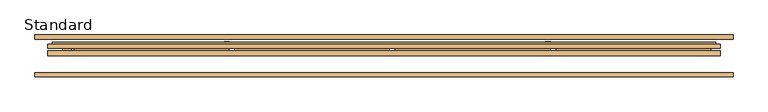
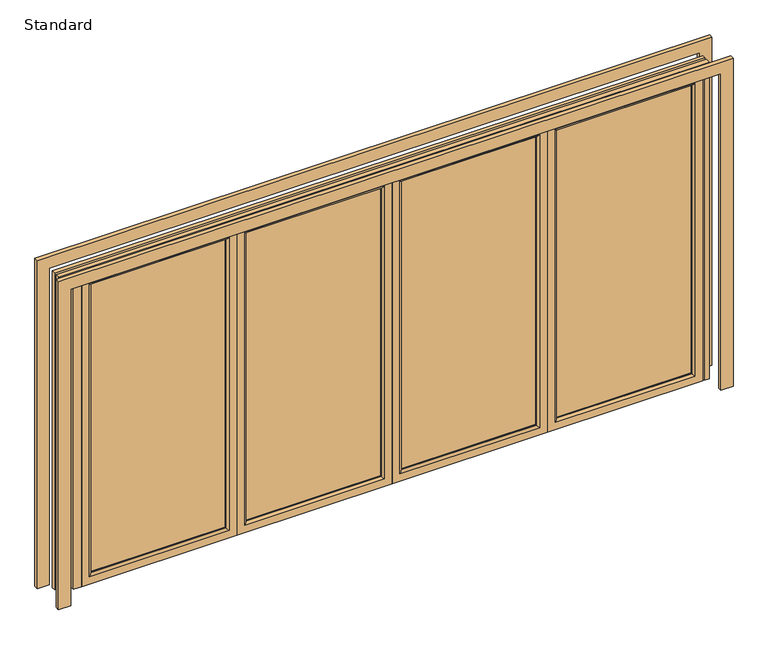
"""IFC4 building model written with IfcOpenShell, lengths in millimetres: door geometry, SMARTS_Visofold1000 : Standard."""

from ifc_helpers import new_model, si_unit, point, frame, frame_2d, origin, origin_with_axes, place, context, project, spatial, polyline, circle_curve, ellipse_curve, trimmed, segment, composite_curve, outline, extrude, faceted_brep, source, transform, mapped, element, save
from ifc_brep_helpers import plane_surface, cylinder_surface, advanced_brep


def standard_d86012df(model_context):
    return source(origin(), model_context, "Body", "SolidModel", [
        extrude(outline(composite_curve([segment(polyline([(1228.0996413, -951.0), (1040.0996413, -951.0)]), True, "CONTINUOUS"), segment(trimmed(circle_curve(frame_2d((1040.0996413, -935.0)), 16.0), [point((1040.0996413, -951.0))], [point((1040.0996413, -919.0))], False, "CARTESIAN"), True, "CONTINUOUS"), segment(polyline([(1040.0996413, -919.0), (1228.0996413, -919.0)]), True, "CONTINUOUS"), segment(trimmed(circle_curve(frame_2d((1228.0996413, -935.0)), 16.0), [point((1228.0996413, -919.0))], [point((1228.0996413, -951.0))], False, "CARTESIAN"), True, "CONTINUOUS")], self_intersect=False)), frame((0.0, 75.0, 0.0), z_axis=(0.0, 1.0, 0.0), x_axis=(0.0, 0.0, 1.0)), (0.0, 0.0, 1.0), 10.0),
        extrude(outline(polyline([(45.0, -950.0), (1955.0, -950.0), (1955.0, -1815.0), (45.0, -1815.0), (45.0, -950.0)]), holes=[polyline([(1939.5, -965.5), (60.5, -965.5), (60.5, -1799.5), (1939.5, -1799.5), (1939.5, -965.5)])]), frame((0.0, 17.4, 0.0), z_axis=(0.0, 1.0, 0.0), x_axis=(0.0, 0.0, 1.0)), (0.0, 0.0, 1.0), 35.0),
        faceted_brep([(-905.0, 74.4, 0.0), (-905.0, 74.4, 2000.0), (-905.0, 52.4, 2000.0), (-905.0, 52.4, 0.0), (-965.5, 52.4, 60.5), (-965.5, 52.4, 1939.5), (-965.5, 74.4, 1939.5), (-965.5, 74.4, 60.5), (-1860.0, 74.4, 2000.0), (-1860.0, 52.4, 2000.0), (-1799.5, 52.4, 1939.5), (-1799.5, 74.4, 1939.5), (-1860.0, 74.4, 0.0), (-1860.0, 52.4, 0.0), (-1799.5, 52.4, 60.5), (-1799.5, 74.4, 60.5), (-922.8691481, 34.8, 17.8691481), (-922.8691481, 34.8, 1982.1308519), (-1842.1308519, 34.8, 1982.1308519), (-1842.1308519, 34.8, 17.8691481), (-950.0, 34.8, 1955.0), (-950.0, 34.8, 45.0), (-1815.0, 34.8, 45.0), (-1815.0, 34.8, 1955.0), (-922.8691481, 52.4, 17.8691481), (-922.8691481, 52.4, 1982.1308519), (-950.0, 52.4, 1955.0), (-950.0, 52.4, 45.0), (-1842.1308519, 52.4, 1982.1308519), (-1815.0, 52.4, 1955.0), (-1842.1308519, 52.4, 17.8691481), (-1815.0, 52.4, 45.0)], [[[0, 1, 2, 3]], [[4, 5, 6, 7]], [[1, 8, 9, 2]], [[5, 10, 11, 6]], [[8, 12, 13, 9]], [[10, 14, 15, 11]], [[12, 0, 3, 13]], [[1, 0, 12, 8], [7, 6, 11, 15]], [[14, 4, 7, 15]], [[16, 17, 18, 19], [20, 21, 22, 23]], [[24, 25, 17, 16]], [[21, 20, 26, 27]], [[25, 28, 18, 17]], [[20, 23, 29, 26]], [[28, 30, 19, 18]], [[23, 22, 31, 29]], [[30, 24, 16, 19]], [[3, 2, 9, 13], [25, 24, 30, 28]], [[27, 26, 29, 31], [5, 4, 14, 10]], [[22, 21, 27, 31]]]),
        advanced_brep(
        [(-965.5, 13.3, 60.5), (-965.5, 13.3, 1939.5), (-965.5, 17.4, 1939.5), (-965.5, 17.4, 60.5), (-905.0, 17.4, 0.0), (-905.0, 17.4, 2000.0), (-905.0, 0.0, 2000.0), (-905.0, 0.0, 0.0), (-1799.5, 13.3, 1939.5), (-1799.5, 17.4, 1939.5), (-1860.0, 17.4, 2000.0), (-1860.0, 0.0, 2000.0), (-1799.5, 13.3, 60.5), (-1799.5, 17.4, 60.5), (-1860.0, 17.4, 0.0), (-1860.0, 0.0, 0.0), (-952.2, 0.0, 1952.8), (-952.2, 0.0, 47.2), (-1812.8, 0.0, 47.2), (-1812.8, 0.0, 1952.8), (-922.8691481, 34.8, 17.8691481), (-922.8691481, 34.8, 1982.1308519), (-922.8691481, 17.4, 1982.1308519), (-922.8691481, 17.4, 17.8691481), (-1842.1308519, 34.8, 1982.1308519), (-1842.1308519, 17.4, 1982.1308519), (-1842.1308519, 34.8, 17.8691481), (-1842.1308519, 17.4, 17.8691481), (-950.0, 17.4, 45.0), (-950.0, 17.4, 1955.0), (-950.0, 34.8, 1955.0), (-950.0, 34.8, 45.0), (-1815.0, 17.4, 1955.0), (-1815.0, 34.8, 1955.0), (-1815.0, 17.4, 45.0), (-1815.0, 34.8, 45.0)],
        [
            (0, 1),
            (1, 2),
            (2, 3),
            (3, 0),
            (4, 5),
            (5, 6),
            (6, 7),
            (7, 4),
            (1, 8),
            (8, 9),
            (9, 2),
            (5, 10),
            (10, 11),
            (11, 6),
            (8, 12),
            (12, 13),
            (13, 9),
            (10, 14),
            (14, 15),
            (15, 11),
            (12, 0),
            (3, 13),
            (15, 7),
            (16, 17),
            (17, 18),
            (18, 19),
            (19, 16),
            (14, 4),
            (16, 1, ellipse_curve(frame((-952.2, 13.3, 1952.8), z_axis=(0.7071067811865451, 0.0, -0.7071067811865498), x_axis=(-0.7071067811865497, 0.0, -0.7071067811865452)), 18.8090404, 13.3)),
            (0, 17, ellipse_curve(frame((-952.2, 13.3, 47.2), z_axis=(0.7071067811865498, 0.0, 0.7071067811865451), x_axis=(0.707106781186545, 0.0, -0.70710678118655)), 18.8090404, 13.3)),
            (19, 8, ellipse_curve(frame((-1812.8, 13.3, 1952.8), z_axis=(0.7071067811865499, 0.0, 0.7071067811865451), x_axis=(0.7071067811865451, 0.0, -0.7071067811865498)), 18.8090404, 13.3)),
            (18, 12, ellipse_curve(frame((-1812.8, 13.3, 47.2), z_axis=(-0.7071067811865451, 0.0, 0.7071067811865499), x_axis=(0.7071067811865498, 0.0, 0.7071067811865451)), 18.8090404, 13.3)),
            (20, 21),
            (21, 22),
            (22, 23),
            (23, 20),
            (21, 24),
            (24, 25),
            (25, 22),
            (24, 26),
            (26, 27),
            (27, 25),
            (27, 23),
            (26, 20),
            (28, 29),
            (29, 30),
            (30, 31),
            (31, 28),
            (29, 32),
            (32, 33),
            (33, 30),
            (32, 34),
            (34, 35),
            (35, 33),
            (34, 28),
            (31, 35),
        ],
        [
            plane_surface(frame((-965.5, 17.4, 60.5), z_axis=(-1.0, 0.0, 0.0), x_axis=(0.0, 0.0, 1.0))),
            plane_surface(frame((-905.0, 0.0, 0.0), z_axis=(1.0, 0.0, 0.0), x_axis=(0.0, 0.0, 1.0))),
            plane_surface(frame((-965.5, 17.4, 1939.5), z_axis=(0.0, 0.0, -1.0), x_axis=(-1.0, 0.0, 0.0))),
            plane_surface(frame((-905.0, 0.0, 2000.0), z_axis=(0.0, 0.0, 1.0), x_axis=(-1.0, 0.0, 0.0))),
            plane_surface(frame((-1799.5, 17.4, 1939.5), z_axis=(1.0, 0.0, 0.0), x_axis=(0.0, 0.0, -1.0))),
            plane_surface(frame((-1860.0, 0.0, 2000.0), z_axis=(-1.0, 0.0, 0.0), x_axis=(0.0, 0.0, -1.0))),
            plane_surface(frame((-1799.5, 17.4, 60.5), z_axis=(0.0, 0.0, 1.0), x_axis=(1.0, 0.0, 0.0))),
            plane_surface(frame((-1812.8, 0.0, 47.2), z_axis=(0.0, -1.0, 0.0), x_axis=(1.0, 0.0, 0.0))),
            plane_surface(frame((-1860.0, 0.0, 0.0), z_axis=(0.0, 0.0, -1.0), x_axis=(1.0, 0.0, 0.0))),
            cylinder_surface(frame((-952.2, 13.3, 0.0), z_axis=(0.0, 0.0, -1.0), x_axis=(0.0, 1.0, 0.0)), 13.3),
            cylinder_surface(frame((-905.0, 13.3, 1952.8), z_axis=(1.0, 0.0, 0.0), x_axis=(0.0, 1.0, 0.0)), 13.3),
            cylinder_surface(frame((-1812.8, 13.3, 2000.0), z_axis=(0.0, 0.0, 1.0), x_axis=(0.0, 1.0, 0.0)), 13.3),
            cylinder_surface(frame((-1860.0, 13.3, 47.2), z_axis=(-1.0, 0.0, 0.0), x_axis=(0.0, 1.0, 0.0)), 13.3),
            plane_surface(frame((-922.8691481, 17.4, 17.8691481), z_axis=(1.0, 0.0, 0.0), x_axis=(0.0, 0.0, 1.0))),
            plane_surface(frame((-922.8691481, 17.4, 1982.1308519), z_axis=(0.0, 0.0, 1.0), x_axis=(-1.0, 0.0, 0.0))),
            plane_surface(frame((-1842.1308519, 17.4, 1982.1308519), z_axis=(-1.0, 0.0, 0.0), x_axis=(0.0, 0.0, -1.0))),
            plane_surface(frame((-1860.0, 17.4, 0.0), z_axis=(0.0, 1.0, 0.0), x_axis=(1.0, 0.0, 0.0))),
            plane_surface(frame((-1842.1308519, 17.4, 17.8691481), z_axis=(0.0, 0.0, -1.0), x_axis=(1.0, 0.0, 0.0))),
            plane_surface(frame((-950.0, 34.8, 45.0), z_axis=(-1.0, 0.0, 0.0), x_axis=(0.0, 0.0, 1.0))),
            plane_surface(frame((-950.0, 34.8, 1955.0), z_axis=(0.0, 0.0, -1.0), x_axis=(-1.0, 0.0, 0.0))),
            plane_surface(frame((-1815.0, 34.8, 1955.0), z_axis=(1.0, 0.0, 0.0), x_axis=(0.0, 0.0, -1.0))),
            plane_surface(frame((-1815.0, 34.8, 45.0), z_axis=(0.0, 0.0, 1.0), x_axis=(1.0, 0.0, 0.0))),
            plane_surface(frame((-1815.0, 17.4, 45.0), z_axis=(0.0, 1.0, 0.0), x_axis=(1.0, 0.0, 0.0))),
            plane_surface(frame((-1842.1308519, 34.8, 17.8691481), z_axis=(0.0, 1.0, 0.0), x_axis=(1.0, 0.0, 0.0))),
        ],
        [
            (0, [[1, 2, 3, 4]]),
            (1, [[5, 6, 7, 8]]),
            (2, [[9, 10, 11, -2]]),
            (3, [[12, 13, 14, -6]]),
            (4, [[15, 16, 17, -10]]),
            (5, [[18, 19, 20, -13]]),
            (6, [[21, -4, 22, -16]]),
            (7, [[-7, -14, -20, 23], [24, 25, 26, 27]]),
            (8, [[28, -8, -23, -19]]),
            (9, [[-24, 29, -1, 30]]),
            (10, [[-27, 31, -9, -29]]),
            (11, [[-26, 32, -15, -31]]),
            (12, [[-25, -30, -21, -32]]),
            (13, [[33, 34, 35, 36]]),
            (14, [[37, 38, 39, -34]]),
            (15, [[40, 41, 42, -38]]),
            (16, [[-5, -28, -18, -12], [-35, -39, -42, 43]]),
            (17, [[44, -36, -43, -41]]),
            (18, [[45, 46, 47, 48]]),
            (19, [[49, 50, 51, -46]]),
            (20, [[52, 53, 54, -50]]),
            (21, [[55, -48, 56, -53]]),
            (22, [[-45, -55, -52, -49], [-3, -11, -17, -22]]),
            (23, [[-33, -44, -40, -37], [-47, -51, -54, -56]]),
        ],
    ),
        extrude(outline(polyline([(-965.5, 50.1484783), (-965.5, 21.4), (-1799.5, 21.4), (-1799.5, 50.1484783), (-965.5, 50.1484783)])), frame((0.0, 0.0, 60.5), z_axis=(0.0, 0.0, 1.0), x_axis=(1.0, 0.0, 0.0)), (0.0, 0.0, 1.0), 1879.0),
        extrude(outline(composite_curve([segment(polyline([(1228.0996413, 959.0), (1040.0996413, 959.0)]), True, "CONTINUOUS"), segment(trimmed(circle_curve(frame_2d((1040.0996413, 975.0)), 16.0), [point((1040.0996413, 959.0))], [point((1040.0996413, 991.0))], False, "CARTESIAN"), True, "CONTINUOUS"), segment(polyline([(1040.0996413, 991.0), (1228.0996413, 991.0)]), True, "CONTINUOUS"), segment(trimmed(circle_curve(frame_2d((1228.0996413, 975.0)), 16.0), [point((1228.0996413, 991.0))], [point((1228.0996413, 959.0))], False, "CARTESIAN"), True, "CONTINUOUS")], self_intersect=False)), frame((0.0, 75.0, 0.0), z_axis=(0.0, 1.0, 0.0), x_axis=(0.0, 0.0, 1.0)), (0.0, 0.0, 1.0), 10.0),
        extrude(outline(polyline([(45.0, 960.0), (1955.0, 960.0), (1955.0, 95.0), (45.0, 95.0), (45.0, 960.0)]), holes=[polyline([(1939.5, 944.5), (60.5, 944.5), (60.5, 110.5), (1939.5, 110.5), (1939.5, 944.5)])]), frame((0.0, 17.4, 0.0), z_axis=(0.0, 1.0, 0.0), x_axis=(0.0, 0.0, 1.0)), (0.0, 0.0, 1.0), 35.0),
        faceted_brep([(1005.0, 74.4, 0.0), (1005.0, 74.4, 2000.0), (1005.0, 52.4, 2000.0), (1005.0, 52.4, 0.0), (944.5, 52.4, 60.5), (944.5, 52.4, 1939.5), (944.5, 74.4, 1939.5), (944.5, 74.4, 60.5), (50.0, 74.4, 2000.0), (50.0, 52.4, 2000.0), (110.5, 52.4, 1939.5), (110.5, 74.4, 1939.5), (50.0, 74.4, 0.0), (50.0, 52.4, 0.0), (110.5, 52.4, 60.5), (110.5, 74.4, 60.5), (987.1308519, 34.8, 17.8691481), (987.1308519, 34.8, 1982.1308519), (67.8691481, 34.8, 1982.1308519), (67.8691481, 34.8, 17.8691481), (960.0, 34.8, 1955.0), (960.0, 34.8, 45.0), (95.0, 34.8, 45.0), (95.0, 34.8, 1955.0), (987.1308519, 52.4, 17.8691481), (987.1308519, 52.4, 1982.1308519), (960.0, 52.4, 1955.0), (960.0, 52.4, 45.0), (67.8691481, 52.4, 1982.1308519), (95.0, 52.4, 1955.0), (67.8691481, 52.4, 17.8691481), (95.0, 52.4, 45.0)], [[[0, 1, 2, 3]], [[4, 5, 6, 7]], [[1, 8, 9, 2]], [[5, 10, 11, 6]], [[8, 12, 13, 9]], [[10, 14, 15, 11]], [[12, 0, 3, 13]], [[1, 0, 12, 8], [7, 6, 11, 15]], [[14, 4, 7, 15]], [[16, 17, 18, 19], [20, 21, 22, 23]], [[24, 25, 17, 16]], [[21, 20, 26, 27]], [[25, 28, 18, 17]], [[20, 23, 29, 26]], [[28, 30, 19, 18]], [[23, 22, 31, 29]], [[30, 24, 16, 19]], [[3, 2, 9, 13], [25, 24, 30, 28]], [[27, 26, 29, 31], [5, 4, 14, 10]], [[22, 21, 27, 31]]]),
        advanced_brep(
        [(944.5, 13.3, 60.5), (944.5, 13.3, 1939.5), (944.5, 17.4, 1939.5), (944.5, 17.4, 60.5), (1005.0, 17.4, 0.0), (1005.0, 17.4, 2000.0), (1005.0, 0.0, 2000.0), (1005.0, 0.0, 0.0), (110.5, 13.3, 1939.5), (110.5, 17.4, 1939.5), (50.0, 17.4, 2000.0), (50.0, 0.0, 2000.0), (110.5, 13.3, 60.5), (110.5, 17.4, 60.5), (50.0, 17.4, 0.0), (50.0, 0.0, 0.0), (957.8, 0.0, 1952.8), (957.8, 0.0, 47.2), (97.2, 0.0, 47.2), (97.2, 0.0, 1952.8), (987.1308519, 34.8, 17.8691481), (987.1308519, 34.8, 1982.1308519), (987.1308519, 17.4, 1982.1308519), (987.1308519, 17.4, 17.8691481), (67.8691481, 34.8, 1982.1308519), (67.8691481, 17.4, 1982.1308519), (67.8691481, 34.8, 17.8691481), (67.8691481, 17.4, 17.8691481), (960.0, 17.4, 45.0), (960.0, 17.4, 1955.0), (960.0, 34.8, 1955.0), (960.0, 34.8, 45.0), (95.0, 17.4, 1955.0), (95.0, 34.8, 1955.0), (95.0, 17.4, 45.0), (95.0, 34.8, 45.0)],
        [
            (0, 1),
            (1, 2),
            (2, 3),
            (3, 0),
            (4, 5),
            (5, 6),
            (6, 7),
            (7, 4),
            (1, 8),
            (8, 9),
            (9, 2),
            (5, 10),
            (10, 11),
            (11, 6),
            (8, 12),
            (12, 13),
            (13, 9),
            (10, 14),
            (14, 15),
            (15, 11),
            (12, 0),
            (3, 13),
            (15, 7),
            (16, 17),
            (17, 18),
            (18, 19),
            (19, 16),
            (14, 4),
            (16, 1, ellipse_curve(frame((957.8, 13.3, 1952.8), z_axis=(0.7071067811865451, 0.0, -0.7071067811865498), x_axis=(-0.7071067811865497, 0.0, -0.7071067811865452)), 18.8090404, 13.3)),
            (0, 17, ellipse_curve(frame((957.8, 13.3, 47.2), z_axis=(0.7071067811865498, 0.0, 0.7071067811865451), x_axis=(0.707106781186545, 0.0, -0.70710678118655)), 18.8090404, 13.3)),
            (19, 8, ellipse_curve(frame((97.2, 13.3, 1952.8), z_axis=(0.7071067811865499, 0.0, 0.7071067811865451), x_axis=(0.7071067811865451, 0.0, -0.7071067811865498)), 18.8090404, 13.3)),
            (18, 12, ellipse_curve(frame((97.2, 13.3, 47.2), z_axis=(-0.7071067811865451, 0.0, 0.7071067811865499), x_axis=(0.7071067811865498, 0.0, 0.7071067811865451)), 18.8090404, 13.3)),
            (20, 21),
            (21, 22),
            (22, 23),
            (23, 20),
            (21, 24),
            (24, 25),
            (25, 22),
            (24, 26),
            (26, 27),
            (27, 25),
            (27, 23),
            (26, 20),
            (28, 29),
            (29, 30),
            (30, 31),
            (31, 28),
            (29, 32),
            (32, 33),
            (33, 30),
            (32, 34),
            (34, 35),
            (35, 33),
            (34, 28),
            (31, 35),
        ],
        [
            plane_surface(frame((944.5, 17.4, 60.5), z_axis=(-1.0, 0.0, 0.0), x_axis=(0.0, 0.0, 1.0))),
            plane_surface(frame((1005.0, 0.0, 0.0), z_axis=(1.0, 0.0, 0.0), x_axis=(0.0, 0.0, 1.0))),
            plane_surface(frame((944.5, 17.4, 1939.5), z_axis=(0.0, 0.0, -1.0), x_axis=(-1.0, 0.0, 0.0))),
            plane_surface(frame((1005.0, 0.0, 2000.0), z_axis=(0.0, 0.0, 1.0), x_axis=(-1.0, 0.0, 0.0))),
            plane_surface(frame((110.5, 17.4, 1939.5), z_axis=(1.0, 0.0, 0.0), x_axis=(0.0, 0.0, -1.0))),
            plane_surface(frame((50.0, 0.0, 2000.0), z_axis=(-1.0, 0.0, 0.0), x_axis=(0.0, 0.0, -1.0))),
            plane_surface(frame((110.5, 17.4, 60.5), z_axis=(0.0, 0.0, 1.0), x_axis=(1.0, 0.0, 0.0))),
            plane_surface(frame((97.2, 0.0, 47.2), z_axis=(0.0, -1.0, 0.0), x_axis=(1.0, 0.0, 0.0))),
            plane_surface(frame((50.0, 0.0, 0.0), z_axis=(0.0, 0.0, -1.0), x_axis=(1.0, 0.0, 0.0))),
            cylinder_surface(frame((957.8, 13.3, 0.0), z_axis=(0.0, 0.0, -1.0), x_axis=(0.0, 1.0, 0.0)), 13.3),
            cylinder_surface(frame((1005.0, 13.3, 1952.8), z_axis=(1.0, 0.0, 0.0), x_axis=(0.0, 1.0, 0.0)), 13.3),
            cylinder_surface(frame((97.2, 13.3, 2000.0), z_axis=(0.0, 0.0, 1.0), x_axis=(0.0, 1.0, 0.0)), 13.3),
            cylinder_surface(frame((50.0, 13.3, 47.2), z_axis=(-1.0, 0.0, 0.0), x_axis=(0.0, 1.0, 0.0)), 13.3),
            plane_surface(frame((987.1308519, 17.4, 17.8691481), z_axis=(1.0, 0.0, 0.0), x_axis=(0.0, 0.0, 1.0))),
            plane_surface(frame((987.1308519, 17.4, 1982.1308519), z_axis=(0.0, 0.0, 1.0), x_axis=(-1.0, 0.0, 0.0))),
            plane_surface(frame((67.8691481, 17.4, 1982.1308519), z_axis=(-1.0, 0.0, 0.0), x_axis=(0.0, 0.0, -1.0))),
            plane_surface(frame((50.0, 17.4, 0.0), z_axis=(0.0, 1.0, 0.0), x_axis=(1.0, 0.0, 0.0))),
            plane_surface(frame((67.8691481, 17.4, 17.8691481), z_axis=(0.0, 0.0, -1.0), x_axis=(1.0, 0.0, 0.0))),
            plane_surface(frame((960.0, 34.8, 45.0), z_axis=(-1.0, 0.0, 0.0), x_axis=(0.0, 0.0, 1.0))),
            plane_surface(frame((960.0, 34.8, 1955.0), z_axis=(0.0, 0.0, -1.0), x_axis=(-1.0, 0.0, 0.0))),
            plane_surface(frame((95.0, 34.8, 1955.0), z_axis=(1.0, 0.0, 0.0), x_axis=(0.0, 0.0, -1.0))),
            plane_surface(frame((95.0, 34.8, 45.0), z_axis=(0.0, 0.0, 1.0), x_axis=(1.0, 0.0, 0.0))),
            plane_surface(frame((95.0, 17.4, 45.0), z_axis=(0.0, 1.0, 0.0), x_axis=(1.0, 0.0, 0.0))),
            plane_surface(frame((67.8691481, 34.8, 17.8691481), z_axis=(0.0, 1.0, 0.0), x_axis=(1.0, 0.0, 0.0))),
        ],
        [
            (0, [[1, 2, 3, 4]]),
            (1, [[5, 6, 7, 8]]),
            (2, [[9, 10, 11, -2]]),
            (3, [[12, 13, 14, -6]]),
            (4, [[15, 16, 17, -10]]),
            (5, [[18, 19, 20, -13]]),
            (6, [[21, -4, 22, -16]]),
            (7, [[-7, -14, -20, 23], [24, 25, 26, 27]]),
            (8, [[28, -8, -23, -19]]),
            (9, [[-24, 29, -1, 30]]),
            (10, [[-27, 31, -9, -29]]),
            (11, [[-26, 32, -15, -31]]),
            (12, [[-25, -30, -21, -32]]),
            (13, [[33, 34, 35, 36]]),
            (14, [[37, 38, 39, -34]]),
            (15, [[40, 41, 42, -38]]),
            (16, [[-5, -28, -18, -12], [-35, -39, -42, 43]]),
            (17, [[44, -36, -43, -41]]),
            (18, [[45, 46, 47, 48]]),
            (19, [[49, 50, 51, -46]]),
            (20, [[52, 53, 54, -50]]),
            (21, [[55, -48, 56, -53]]),
            (22, [[-45, -55, -52, -49], [-3, -11, -17, -22]]),
            (23, [[-33, -44, -40, -37], [-47, -51, -54, -56]]),
        ],
    ),
        extrude(outline(polyline([(944.5, 50.1484783), (944.5, 21.4), (110.5, 21.4), (110.5, 50.1484783), (944.5, 50.1484783)])), frame((0.0, 0.0, 60.5), z_axis=(0.0, 0.0, 1.0), x_axis=(1.0, 0.0, 0.0)), (0.0, 0.0, 1.0), 1879.0),
        extrude(outline(polyline([(45.0, -860.0), (45.0, 5.0), (1955.0, 5.0), (1955.0, -860.0), (45.0, -860.0)]), holes=[polyline([(1939.5, -844.5), (1939.5, -10.5), (60.5, -10.5), (60.5, -844.5), (1939.5, -844.5)])]), frame((0.0, 17.4, 0.0), z_axis=(0.0, 1.0, 0.0), x_axis=(0.0, 0.0, 1.0)), (0.0, 0.0, 1.0), 35.0),
        faceted_brep([(-905.0, 74.4, 0.0), (-905.0, 52.4, 0.0), (-905.0, 52.4, 2000.0), (-905.0, 74.4, 2000.0), (-844.5, 52.4, 60.5), (-844.5, 74.4, 60.5), (-844.5, 74.4, 1939.5), (-844.5, 52.4, 1939.5), (50.0, 52.4, 2000.0), (50.0, 74.4, 2000.0), (-10.5, 74.4, 1939.5), (-10.5, 52.4, 1939.5), (50.0, 52.4, 0.0), (50.0, 74.4, 0.0), (-10.5, 74.4, 60.5), (-10.5, 52.4, 60.5), (-887.1308519, 34.8, 17.8691481), (32.1308519, 34.8, 17.8691481), (32.1308519, 34.8, 1982.1308519), (-887.1308519, 34.8, 1982.1308519), (-860.0, 34.8, 1955.0), (5.0, 34.8, 1955.0), (5.0, 34.8, 45.0), (-860.0, 34.8, 45.0), (-887.1308519, 52.4, 17.8691481), (-887.1308519, 52.4, 1982.1308519), (-860.0, 52.4, 45.0), (-860.0, 52.4, 1955.0), (32.1308519, 52.4, 1982.1308519), (5.0, 52.4, 1955.0), (32.1308519, 52.4, 17.8691481), (5.0, 52.4, 45.0)], [[[0, 1, 2, 3]], [[4, 5, 6, 7]], [[3, 2, 8, 9]], [[7, 6, 10, 11]], [[9, 8, 12, 13]], [[11, 10, 14, 15]], [[13, 12, 1, 0]], [[3, 9, 13, 0], [5, 14, 10, 6]], [[15, 14, 5, 4]], [[16, 17, 18, 19], [20, 21, 22, 23]], [[24, 16, 19, 25]], [[23, 26, 27, 20]], [[25, 19, 18, 28]], [[20, 27, 29, 21]], [[28, 18, 17, 30]], [[21, 29, 31, 22]], [[30, 17, 16, 24]], [[1, 12, 8, 2], [25, 28, 30, 24]], [[26, 31, 29, 27], [7, 11, 15, 4]], [[22, 31, 26, 23]]]),
        advanced_brep(
        [(-844.5, 13.3, 60.5), (-844.5, 17.4, 60.5), (-844.5, 17.4, 1939.5), (-844.5, 13.3, 1939.5), (-905.0, 17.4, 0.0), (-905.0, 0.0, 0.0), (-905.0, 0.0, 2000.0), (-905.0, 17.4, 2000.0), (-10.5, 17.4, 1939.5), (-10.5, 13.3, 1939.5), (50.0, 0.0, 2000.0), (50.0, 17.4, 2000.0), (-10.5, 17.4, 60.5), (-10.5, 13.3, 60.5), (50.0, 0.0, 0.0), (50.0, 17.4, 0.0), (-857.8, 0.0, 1952.8), (2.8, 0.0, 1952.8), (2.8, 0.0, 47.2), (-857.8, 0.0, 47.2), (-887.1308519, 34.8, 17.8691481), (-887.1308519, 17.4, 17.8691481), (-887.1308519, 17.4, 1982.1308519), (-887.1308519, 34.8, 1982.1308519), (32.1308519, 17.4, 1982.1308519), (32.1308519, 34.8, 1982.1308519), (32.1308519, 17.4, 17.8691481), (32.1308519, 34.8, 17.8691481), (-860.0, 17.4, 45.0), (-860.0, 34.8, 45.0), (-860.0, 34.8, 1955.0), (-860.0, 17.4, 1955.0), (5.0, 34.8, 1955.0), (5.0, 17.4, 1955.0), (5.0, 34.8, 45.0), (5.0, 17.4, 45.0)],
        [
            (0, 1),
            (1, 2),
            (2, 3),
            (3, 0),
            (4, 5),
            (5, 6),
            (6, 7),
            (7, 4),
            (2, 8),
            (8, 9),
            (9, 3),
            (6, 10),
            (10, 11),
            (11, 7),
            (8, 12),
            (12, 13),
            (13, 9),
            (10, 14),
            (14, 15),
            (15, 11),
            (12, 1),
            (0, 13),
            (5, 14),
            (16, 17),
            (17, 18),
            (18, 19),
            (19, 16),
            (4, 15),
            (19, 0, ellipse_curve(frame((-857.8, 13.3, 47.2), z_axis=(-0.7071067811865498, 0.0, 0.7071067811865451), x_axis=(-0.707106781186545, 0.0, -0.70710678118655)), 18.8090404, 13.3)),
            (3, 16, ellipse_curve(frame((-857.8, 13.3, 1952.8), z_axis=(-0.7071067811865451, 0.0, -0.7071067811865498), x_axis=(0.7071067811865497, 0.0, -0.7071067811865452)), 18.8090404, 13.3)),
            (9, 17, ellipse_curve(frame((2.8, 13.3, 1952.8), z_axis=(-0.7071067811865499, 0.0, 0.7071067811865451), x_axis=(-0.7071067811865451, 0.0, -0.7071067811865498)), 18.8090404, 13.3)),
            (13, 18, ellipse_curve(frame((2.8, 13.3, 47.2), z_axis=(0.7071067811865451, 0.0, 0.7071067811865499), x_axis=(-0.7071067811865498, 0.0, 0.7071067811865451)), 18.8090404, 13.3)),
            (20, 21),
            (21, 22),
            (22, 23),
            (23, 20),
            (22, 24),
            (24, 25),
            (25, 23),
            (24, 26),
            (26, 27),
            (27, 25),
            (21, 26),
            (20, 27),
            (28, 29),
            (29, 30),
            (30, 31),
            (31, 28),
            (30, 32),
            (32, 33),
            (33, 31),
            (32, 34),
            (34, 35),
            (35, 33),
            (34, 29),
            (28, 35),
        ],
        [
            plane_surface(frame((-844.5, 17.4, 60.5), z_axis=(1.0, 0.0, 0.0), x_axis=(0.0, 0.0, 1.0))),
            plane_surface(frame((-905.0, 0.0, 0.0), z_axis=(-1.0, 0.0, 0.0), x_axis=(0.0, 0.0, 1.0))),
            plane_surface(frame((-844.5, 17.4, 1939.5), z_axis=(0.0, 0.0, -1.0), x_axis=(1.0, 0.0, 0.0))),
            plane_surface(frame((-905.0, 0.0, 2000.0), z_axis=(0.0, 0.0, 1.0), x_axis=(1.0, 0.0, 0.0))),
            plane_surface(frame((-10.5, 17.4, 1939.5), z_axis=(-1.0, 0.0, 0.0), x_axis=(0.0, 0.0, -1.0))),
            plane_surface(frame((50.0, 0.0, 2000.0), z_axis=(1.0, 0.0, 0.0), x_axis=(0.0, 0.0, -1.0))),
            plane_surface(frame((-10.5, 17.4, 60.5), z_axis=(0.0, 0.0, 1.0), x_axis=(-1.0, 0.0, 0.0))),
            plane_surface(frame((2.8, 0.0, 47.2), z_axis=(0.0, -1.0, 0.0), x_axis=(-1.0, 0.0, 0.0))),
            plane_surface(frame((50.0, 0.0, 0.0), z_axis=(0.0, 0.0, -1.0), x_axis=(-1.0, 0.0, 0.0))),
            cylinder_surface(frame((-857.8, 13.3, 0.0), z_axis=(0.0, 0.0, -1.0), x_axis=(0.0, 1.0, 0.0)), 13.3),
            cylinder_surface(frame((-905.0, 13.3, 1952.8), z_axis=(-1.0, 0.0, 0.0), x_axis=(0.0, 1.0, 0.0)), 13.3),
            cylinder_surface(frame((2.8, 13.3, 2000.0), z_axis=(0.0, 0.0, 1.0), x_axis=(0.0, 1.0, 0.0)), 13.3),
            cylinder_surface(frame((50.0, 13.3, 47.2), z_axis=(1.0, 0.0, 0.0), x_axis=(0.0, 1.0, 0.0)), 13.3),
            plane_surface(frame((-887.1308519, 17.4, 17.8691481), z_axis=(-1.0, 0.0, 0.0), x_axis=(0.0, 0.0, 1.0))),
            plane_surface(frame((-887.1308519, 17.4, 1982.1308519), z_axis=(0.0, 0.0, 1.0), x_axis=(1.0, 0.0, 0.0))),
            plane_surface(frame((32.1308519, 17.4, 1982.1308519), z_axis=(1.0, 0.0, 0.0), x_axis=(0.0, 0.0, -1.0))),
            plane_surface(frame((50.0, 17.4, 0.0), z_axis=(0.0, 1.0, 0.0), x_axis=(-1.0, 0.0, 0.0))),
            plane_surface(frame((32.1308519, 17.4, 17.8691481), z_axis=(0.0, 0.0, -1.0), x_axis=(-1.0, 0.0, 0.0))),
            plane_surface(frame((-860.0, 34.8, 45.0), z_axis=(1.0, 0.0, 0.0), x_axis=(0.0, 0.0, 1.0))),
            plane_surface(frame((-860.0, 34.8, 1955.0), z_axis=(0.0, 0.0, -1.0), x_axis=(1.0, 0.0, 0.0))),
            plane_surface(frame((5.0, 34.8, 1955.0), z_axis=(-1.0, 0.0, 0.0), x_axis=(0.0, 0.0, -1.0))),
            plane_surface(frame((5.0, 34.8, 45.0), z_axis=(0.0, 0.0, 1.0), x_axis=(-1.0, 0.0, 0.0))),
            plane_surface(frame((5.0, 17.4, 45.0), z_axis=(0.0, 1.0, 0.0), x_axis=(-1.0, 0.0, 0.0))),
            plane_surface(frame((32.1308519, 34.8, 17.8691481), z_axis=(0.0, 1.0, 0.0), x_axis=(-1.0, 0.0, 0.0))),
        ],
        [
            (0, [[1, 2, 3, 4]]),
            (1, [[5, 6, 7, 8]]),
            (2, [[-3, 9, 10, 11]]),
            (3, [[-7, 12, 13, 14]]),
            (4, [[-10, 15, 16, 17]]),
            (5, [[-13, 18, 19, 20]]),
            (6, [[-16, 21, -1, 22]]),
            (7, [[23, -18, -12, -6], [24, 25, 26, 27]]),
            (8, [[-19, -23, -5, 28]]),
            (9, [[29, -4, 30, -27]]),
            (10, [[-30, -11, 31, -24]]),
            (11, [[-31, -17, 32, -25]]),
            (12, [[-32, -22, -29, -26]]),
            (13, [[33, 34, 35, 36]]),
            (14, [[-35, 37, 38, 39]]),
            (15, [[-38, 40, 41, 42]]),
            (16, [[-14, -20, -28, -8], [43, -40, -37, -34]]),
            (17, [[-41, -43, -33, 44]]),
            (18, [[45, 46, 47, 48]]),
            (19, [[-47, 49, 50, 51]]),
            (20, [[-50, 52, 53, 54]]),
            (21, [[-53, 55, -45, 56]]),
            (22, [[-51, -54, -56, -48], [-21, -15, -9, -2]]),
            (23, [[-39, -42, -44, -36], [-55, -52, -49, -46]]),
        ],
    ),
        extrude(outline(polyline([(-844.5, 50.1484783), (-10.5, 50.1484783), (-10.5, 21.4), (-844.5, 21.4), (-844.5, 50.1484783)])), frame((0.0, 0.0, 60.5), z_axis=(0.0, 0.0, 1.0), x_axis=(1.0, 0.0, 0.0)), (0.0, 0.0, 1.0), 1879.0),
        extrude(outline(polyline([(45.0, 1050.0), (45.0, 1915.0), (1955.0, 1915.0), (1955.0, 1050.0), (45.0, 1050.0)]), holes=[polyline([(1939.5, 1065.5), (1939.5, 1899.5), (60.5, 1899.5), (60.5, 1065.5), (1939.5, 1065.5)])]), frame((0.0, 17.4, 0.0), z_axis=(0.0, 1.0, 0.0), x_axis=(0.0, 0.0, 1.0)), (0.0, 0.0, 1.0), 35.0),
        faceted_brep([(1005.0, 74.4, 0.0), (1005.0, 52.4, 0.0), (1005.0, 52.4, 2000.0), (1005.0, 74.4, 2000.0), (1065.5, 52.4, 60.5), (1065.5, 74.4, 60.5), (1065.5, 74.4, 1939.5), (1065.5, 52.4, 1939.5), (1960.0, 74.4, 0.0), (1960.0, 52.4, 0.0), (1960.0, 52.4, 2000.0), (1960.0, 74.4, 2000.0), (1899.5, 74.4, 1939.5), (1899.5, 52.4, 1939.5), (1899.5, 74.4, 60.5), (1899.5, 52.4, 60.5), (1022.8691481, 34.8, 17.8691481), (1942.1308519, 34.8, 17.8691481), (1942.1308519, 34.8, 1982.1308519), (1022.8691481, 34.8, 1982.1308519), (1050.0, 34.8, 1955.0), (1915.0, 34.8, 1955.0), (1915.0, 34.8, 45.0), (1050.0, 34.8, 45.0), (1022.8691481, 52.4, 17.8691481), (1022.8691481, 52.4, 1982.1308519), (1050.0, 52.4, 45.0), (1050.0, 52.4, 1955.0), (1942.1308519, 52.4, 1982.1308519), (1915.0, 52.4, 1955.0), (1942.1308519, 52.4, 17.8691481), (1915.0, 52.4, 45.0)], [[[0, 1, 2, 3]], [[4, 5, 6, 7]], [[8, 9, 1, 0]], [[3, 2, 10, 11]], [[7, 6, 12, 13]], [[11, 10, 9, 8]], [[13, 12, 14, 15]], [[3, 11, 8, 0], [5, 14, 12, 6]], [[15, 14, 5, 4]], [[16, 17, 18, 19], [20, 21, 22, 23]], [[24, 16, 19, 25]], [[23, 26, 27, 20]], [[25, 19, 18, 28]], [[20, 27, 29, 21]], [[28, 18, 17, 30]], [[21, 29, 31, 22]], [[30, 17, 16, 24]], [[1, 9, 10, 2], [25, 28, 30, 24]], [[26, 31, 29, 27], [7, 13, 15, 4]], [[22, 31, 26, 23]]]),
        advanced_brep(
        [(1065.5, 13.3, 60.5), (1065.5, 17.4, 60.5), (1065.5, 17.4, 1939.5), (1065.5, 13.3, 1939.5), (1005.0, 17.4, 0.0), (1005.0, 0.0, 0.0), (1005.0, 0.0, 2000.0), (1005.0, 17.4, 2000.0), (1899.5, 17.4, 1939.5), (1899.5, 13.3, 1939.5), (1960.0, 0.0, 2000.0), (1960.0, 17.4, 2000.0), (1899.5, 17.4, 60.5), (1899.5, 13.3, 60.5), (1960.0, 0.0, 0.0), (1960.0, 17.4, 0.0), (1052.2, 0.0, 1952.8), (1912.8, 0.0, 1952.8), (1912.8, 0.0, 47.2), (1052.2, 0.0, 47.2), (1022.8691481, 34.8, 17.8691481), (1022.8691481, 17.4, 17.8691481), (1022.8691481, 17.4, 1982.1308519), (1022.8691481, 34.8, 1982.1308519), (1942.1308519, 17.4, 1982.1308519), (1942.1308519, 34.8, 1982.1308519), (1942.1308519, 17.4, 17.8691481), (1942.1308519, 34.8, 17.8691481), (1050.0, 17.4, 45.0), (1050.0, 34.8, 45.0), (1050.0, 34.8, 1955.0), (1050.0, 17.4, 1955.0), (1915.0, 34.8, 1955.0), (1915.0, 17.4, 1955.0), (1915.0, 34.8, 45.0), (1915.0, 17.4, 45.0)],
        [
            (0, 1),
            (1, 2),
            (2, 3),
            (3, 0),
            (4, 5),
            (5, 6),
            (6, 7),
            (7, 4),
            (2, 8),
            (8, 9),
            (9, 3),
            (6, 10),
            (10, 11),
            (11, 7),
            (8, 12),
            (12, 13),
            (13, 9),
            (10, 14),
            (14, 15),
            (15, 11),
            (12, 1),
            (0, 13),
            (5, 14),
            (16, 17),
            (17, 18),
            (18, 19),
            (19, 16),
            (4, 15),
            (19, 0, ellipse_curve(frame((1052.2, 13.3, 47.2), z_axis=(-0.7071067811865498, 0.0, 0.7071067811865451), x_axis=(-0.707106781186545, 0.0, -0.70710678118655)), 18.8090404, 13.3)),
            (3, 16, ellipse_curve(frame((1052.2, 13.3, 1952.8), z_axis=(-0.7071067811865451, 0.0, -0.7071067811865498), x_axis=(0.7071067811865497, 0.0, -0.7071067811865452)), 18.8090404, 13.3)),
            (9, 17, ellipse_curve(frame((1912.8, 13.3, 1952.8), z_axis=(-0.7071067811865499, 0.0, 0.7071067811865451), x_axis=(-0.7071067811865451, 0.0, -0.7071067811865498)), 18.8090404, 13.3)),
            (13, 18, ellipse_curve(frame((1912.8, 13.3, 47.2), z_axis=(0.7071067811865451, 0.0, 0.7071067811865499), x_axis=(-0.7071067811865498, 0.0, 0.7071067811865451)), 18.8090404, 13.3)),
            (20, 21),
            (21, 22),
            (22, 23),
            (23, 20),
            (22, 24),
            (24, 25),
            (25, 23),
            (24, 26),
            (26, 27),
            (27, 25),
            (21, 26),
            (20, 27),
            (28, 29),
            (29, 30),
            (30, 31),
            (31, 28),
            (30, 32),
            (32, 33),
            (33, 31),
            (32, 34),
            (34, 35),
            (35, 33),
            (34, 29),
            (28, 35),
        ],
        [
            plane_surface(frame((1065.5, 17.4, 60.5), z_axis=(1.0, 0.0, 0.0), x_axis=(0.0, 0.0, 1.0))),
            plane_surface(frame((1005.0, 0.0, 0.0), z_axis=(-1.0, 0.0, 0.0), x_axis=(0.0, 0.0, 1.0))),
            plane_surface(frame((1065.5, 17.4, 1939.5), z_axis=(0.0, 0.0, -1.0), x_axis=(1.0, 0.0, 0.0))),
            plane_surface(frame((1005.0, 0.0, 2000.0), z_axis=(0.0, 0.0, 1.0), x_axis=(1.0, 0.0, 0.0))),
            plane_surface(frame((1899.5, 17.4, 1939.5), z_axis=(-1.0, 0.0, 0.0), x_axis=(0.0, 0.0, -1.0))),
            plane_surface(frame((1960.0, 0.0, 2000.0), z_axis=(1.0, 0.0, 0.0), x_axis=(0.0, 0.0, -1.0))),
            plane_surface(frame((1899.5, 17.4, 60.5), z_axis=(0.0, 0.0, 1.0), x_axis=(-1.0, 0.0, 0.0))),
            plane_surface(frame((1912.8, 0.0, 47.2), z_axis=(0.0, -1.0, 0.0), x_axis=(-1.0, 0.0, 0.0))),
            plane_surface(frame((1960.0, 0.0, 0.0), z_axis=(0.0, 0.0, -1.0), x_axis=(-1.0, 0.0, 0.0))),
            cylinder_surface(frame((1052.2, 13.3, 0.0), z_axis=(0.0, 0.0, -1.0), x_axis=(0.0, 1.0, 0.0)), 13.3),
            cylinder_surface(frame((1005.0, 13.3, 1952.8), z_axis=(-1.0, 0.0, 0.0), x_axis=(0.0, 1.0, 0.0)), 13.3),
            cylinder_surface(frame((1912.8, 13.3, 2000.0), z_axis=(0.0, 0.0, 1.0), x_axis=(0.0, 1.0, 0.0)), 13.3),
            cylinder_surface(frame((1960.0, 13.3, 47.2), z_axis=(1.0, 0.0, 0.0), x_axis=(0.0, 1.0, 0.0)), 13.3),
            plane_surface(frame((1022.8691481, 17.4, 17.8691481), z_axis=(-1.0, 0.0, 0.0), x_axis=(0.0, 0.0, 1.0))),
            plane_surface(frame((1022.8691481, 17.4, 1982.1308519), z_axis=(0.0, 0.0, 1.0), x_axis=(1.0, 0.0, 0.0))),
            plane_surface(frame((1942.1308519, 17.4, 1982.1308519), z_axis=(1.0, 0.0, 0.0), x_axis=(0.0, 0.0, -1.0))),
            plane_surface(frame((1960.0, 17.4, 0.0), z_axis=(0.0, 1.0, 0.0), x_axis=(-1.0, 0.0, 0.0))),
            plane_surface(frame((1942.1308519, 17.4, 17.8691481), z_axis=(0.0, 0.0, -1.0), x_axis=(-1.0, 0.0, 0.0))),
            plane_surface(frame((1050.0, 34.8, 45.0), z_axis=(1.0, 0.0, 0.0), x_axis=(0.0, 0.0, 1.0))),
            plane_surface(frame((1050.0, 34.8, 1955.0), z_axis=(0.0, 0.0, -1.0), x_axis=(1.0, 0.0, 0.0))),
            plane_surface(frame((1915.0, 34.8, 1955.0), z_axis=(-1.0, 0.0, 0.0), x_axis=(0.0, 0.0, -1.0))),
            plane_surface(frame((1915.0, 34.8, 45.0), z_axis=(0.0, 0.0, 1.0), x_axis=(-1.0, 0.0, 0.0))),
            plane_surface(frame((1915.0, 17.4, 45.0), z_axis=(0.0, 1.0, 0.0), x_axis=(-1.0, 0.0, 0.0))),
            plane_surface(frame((1942.1308519, 34.8, 17.8691481), z_axis=(0.0, 1.0, 0.0), x_axis=(-1.0, 0.0, 0.0))),
        ],
        [
            (0, [[1, 2, 3, 4]]),
            (1, [[5, 6, 7, 8]]),
            (2, [[-3, 9, 10, 11]]),
            (3, [[-7, 12, 13, 14]]),
            (4, [[-10, 15, 16, 17]]),
            (5, [[-13, 18, 19, 20]]),
            (6, [[-16, 21, -1, 22]]),
            (7, [[23, -18, -12, -6], [24, 25, 26, 27]]),
            (8, [[-19, -23, -5, 28]]),
            (9, [[29, -4, 30, -27]]),
            (10, [[-30, -11, 31, -24]]),
            (11, [[-31, -17, 32, -25]]),
            (12, [[-32, -22, -29, -26]]),
            (13, [[33, 34, 35, 36]]),
            (14, [[-35, 37, 38, 39]]),
            (15, [[-38, 40, 41, 42]]),
            (16, [[-14, -20, -28, -8], [43, -40, -37, -34]]),
            (17, [[-41, -43, -33, 44]]),
            (18, [[45, 46, 47, 48]]),
            (19, [[-47, 49, 50, 51]]),
            (20, [[-50, 52, 53, 54]]),
            (21, [[-53, 55, -45, 56]]),
            (22, [[-51, -54, -56, -48], [-21, -15, -9, -2]]),
            (23, [[-39, -42, -44, -36], [-55, -52, -49, -46]]),
        ],
    ),
        extrude(outline(polyline([(1065.5, 50.1484783), (1899.5, 50.1484783), (1899.5, 21.4), (1065.5, 21.4), (1065.5, 50.1484783)])), frame((0.0, 0.0, 60.5), z_axis=(0.0, 0.0, 1.0), x_axis=(1.0, 0.0, 0.0)), (0.0, 0.0, 1.0), 1879.0),
        extrude(outline(polyline([(-1910.0, 0.0), (-1910.0, 75.1750992), (-1860.0, 75.1750992), (-1860.0, 0.0), (-1910.0, 0.0)])), origin_with_axes(), (0.0, 0.0, 1.0), 2000.0),
        extrude(outline(polyline([(2058.6516063, -2000.0), (2058.6516063, 2000.0), (0.0, 2000.0), (0.0, 2075.0), (2133.6516063, 2075.0), (2133.6516063, -2075.0), (0.0, -2075.0), (0.0, -2000.0), (2058.6516063, -2000.0)])), frame((0.0, 100.0, 0.0), z_axis=(0.0, 1.0, 0.0), x_axis=(0.0, 0.0, 1.0)), (0.0, 0.0, 1.0), 25.0),
        extrude(outline(polyline([(2133.6516063, -2075.0), (0.0, -2075.0), (0.0, -2000.0), (2058.6516063, -2000.0), (2058.6516063, 2000.0), (0.0, 2000.0), (0.0, 2075.0), (2133.6516063, 2075.0), (2133.6516063, -2075.0)])), frame((0.0, -125.0, 0.0), z_axis=(0.0, 1.0, 0.0), x_axis=(0.0, 0.0, 1.0)), (0.0, 0.0, 1.0), 25.0),
        extrude(outline(polyline([(0.0, 1968.8), (0.0, 2000.0), (2058.6516063, 2000.0), (2058.6516063, -2000.0), (0.0, -2000.0), (0.0, -1968.8), (2027.4516063, -1968.8), (2027.4516063, 1968.8), (0.0, 1968.8)])), frame((0.0, 0.0, 0.0), z_axis=(0.0, 1.0, 0.0), x_axis=(0.0, 0.0, 1.0)), (0.0, 0.0, 1.0), 29.65),
        faceted_brep([(2000.0, 44.85, 0.0), (1968.8, 44.85, 0.0), (1968.8, 77.4, 0.0), (1948.3, 77.4, 0.0), (1948.3, 81.9, 0.0), (1970.6, 81.9, 0.0), (1970.6, 70.0, 0.0), (2000.0, 70.0, 0.0), (2000.0, 44.85, 2058.6516063), (-2000.0, 44.85, 2058.6516063), (-2000.0, 44.85, 0.0), (-1968.8, 44.85, 0.0), (-1968.8, 44.85, 2027.4516063), (1968.8, 44.85, 2027.4516063), (1968.8, 77.4, 2027.4516063), (-1968.8, 77.4, 2027.4516063), (-1968.8, 77.4, 0.0), (-1948.3, 77.4, 0.0), (-1948.3, 77.4, 2006.9516063), (1948.3, 77.4, 2006.9516063), (1948.3, 81.9, 2006.9516063), (-1948.3, 81.9, 2006.9516063), (-1948.3, 81.9, 0.0), (-1970.6, 81.9, 0.0), (-1970.6, 81.9, 2029.2516063), (1970.6, 81.9, 2029.2516063), (1970.6, 70.0, 2029.2516063), (-1970.6, 70.0, 2029.2516063), (-1970.6, 70.0, 0.0), (-2000.0, 70.0, 0.0), (-2000.0, 70.0, 2058.6516063), (2000.0, 70.0, 2058.6516063)], [[[0, 1, 2, 3, 4, 5, 6, 7]], [[1, 0, 8, 9, 10, 11, 12, 13]], [[2, 1, 13, 14]], [[3, 2, 14, 15, 16, 17, 18, 19]], [[4, 3, 19, 20]], [[5, 4, 20, 21, 22, 23, 24, 25]], [[6, 5, 25, 26]], [[7, 6, 26, 27, 28, 29, 30, 31]], [[0, 7, 31, 8]], [[10, 29, 28, 23, 22, 17, 16, 11]], [[9, 30, 29, 10]], [[27, 24, 23, 28]], [[21, 18, 17, 22]], [[15, 12, 11, 16]], [[8, 31, 30, 9]], [[14, 13, 12, 15]], [[26, 25, 24, 27]], [[20, 19, 18, 21]]]),
    ])


if __name__ == "__main__":
    model = new_model("IFC4")
    model_context = context("Model", 3, world=origin())
    ifc_project = project(units=[si_unit("LENGTHUNIT", "METRE", prefix="MILLI")], contexts=[model_context])
    site = spatial("IfcSite", under=ifc_project)
    building = spatial("IfcBuilding", under=site)
    placement = place(None, origin())
    standard_shape = standard_d86012df(model_context)
    element("IfcDoor", 1, ObjectType="SMARTS_Visofold1000 : Standard", at=placement, inside=building, context=model_context, shape_type="MappedRepresentation", body=[
        mapped(standard_shape, transform((0.0, 0.0, 0.0), x_axis=(1.0, 0.0, 0.0), y_axis=(0.0, 1.0, 0.0), z_axis=(0.0, 0.0, 1.0))),
    ])
    save(model, "model.ifc")
